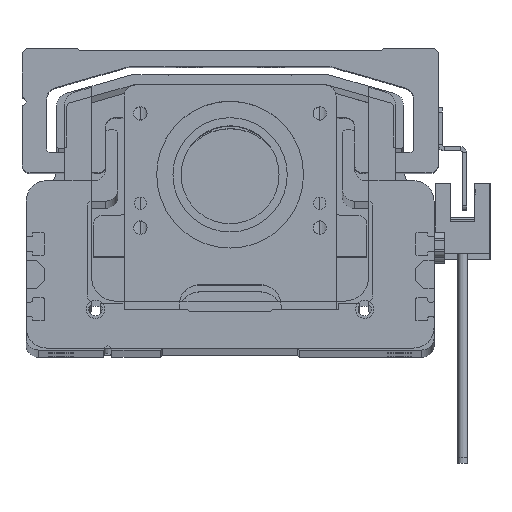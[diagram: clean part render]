
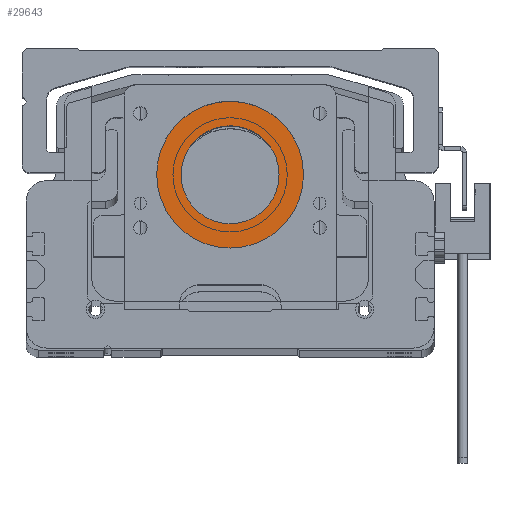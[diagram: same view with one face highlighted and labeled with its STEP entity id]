
A CAD part, top view. The second image highlights one B-rep face of the part: STEP entity #29643.
In plain terms, the highlighted planar face has unit normal (0, 0, 1).
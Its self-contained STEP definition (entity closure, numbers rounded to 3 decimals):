
#61 = CARTESIAN_POINT ( 'NONE',  ( 0., 33., 2.5 ) ) ;
#1022 = AXIS2_PLACEMENT_3D ( 'NONE', #19392, #4127, #21903 ) ;
#1275 = DIRECTION ( 'NONE',  ( 1., 0., 0. ) ) ;
#2590 = CIRCLE ( 'NONE', #1022, 12. ) ;
#3141 = FACE_OUTER_BOUND ( 'NONE', #21483, .T. ) ;
#4127 = DIRECTION ( 'NONE',  ( 0., 0., 1. ) ) ;
#5139 = EDGE_LOOP ( 'NONE', ( #28637, #7697 ) ) ;
#6093 = CARTESIAN_POINT ( 'NONE',  ( -12., 33., 2.5 ) ) ;
#6360 = CARTESIAN_POINT ( 'NONE',  ( 0., 33., 2.5 ) ) ;
#7527 = EDGE_CURVE ( 'NONE', #23690, #32506, #20418, .T. ) ;
#7697 = ORIENTED_EDGE ( 'NONE', *, *, #32660, .F. ) ;
#8209 = DIRECTION ( 'NONE',  ( 1., 0., 0. ) ) ;
#8259 = DIRECTION ( 'NONE',  ( 0., 0., 1. ) ) ;
#8318 = CARTESIAN_POINT ( 'NONE',  ( 0., 33., 2.5 ) ) ;
#9171 = FACE_BOUND ( 'NONE', #5139, .T. ) ;
#9661 = DIRECTION ( 'NONE',  ( 1., 0., 0. ) ) ;
#9734 = DIRECTION ( 'NONE',  ( 0., 0., 1. ) ) ;
#9738 = CARTESIAN_POINT ( 'NONE',  ( 0., 33., 2.5 ) ) ;
#11383 = VERTEX_POINT ( 'NONE', #11462 ) ;
#11462 = CARTESIAN_POINT ( 'NONE',  ( 12., 33., 2.5 ) ) ;
#11823 = CARTESIAN_POINT ( 'NONE',  ( -18., 33., 2.5 ) ) ;
#12902 = AXIS2_PLACEMENT_3D ( 'NONE', #9738, #9734, #9661 ) ;
#14515 = CIRCLE ( 'NONE', #26238, 18. ) ;
#16610 = DIRECTION ( 'NONE',  ( 0., 0., 1. ) ) ;
#17144 = DIRECTION ( 'NONE',  ( 0., 0., 1. ) ) ;
#17277 = AXIS2_PLACEMENT_3D ( 'NONE', #6360, #16610, #1275 ) ;
#17867 = EDGE_CURVE ( 'NONE', #11383, #24068, #31363, .T. ) ;
#19392 = CARTESIAN_POINT ( 'NONE',  ( 0., 33., 2.5 ) ) ;
#20418 = CIRCLE ( 'NONE', #26376, 18. ) ;
#21234 = EDGE_CURVE ( 'NONE', #32506, #23690, #14515, .T. ) ;
#21483 = EDGE_LOOP ( 'NONE', ( #23577, #23161 ) ) ;
#21903 = DIRECTION ( 'NONE',  ( 1., 0., 0. ) ) ;
#23161 = ORIENTED_EDGE ( 'NONE', *, *, #7527, .T. ) ;
#23577 = ORIENTED_EDGE ( 'NONE', *, *, #21234, .T. ) ;
#23690 = VERTEX_POINT ( 'NONE', #11823 ) ;
#24068 = VERTEX_POINT ( 'NONE', #6093 ) ;
#24073 = PLANE ( 'NONE',  #17277 ) ;
#26034 = CARTESIAN_POINT ( 'NONE',  ( 18., 33., 2.5 ) ) ;
#26238 = AXIS2_PLACEMENT_3D ( 'NONE', #8318, #8259, #8209 ) ;
#26376 = AXIS2_PLACEMENT_3D ( 'NONE', #61, #17144, #32637 ) ;
#28637 = ORIENTED_EDGE ( 'NONE', *, *, #17867, .F. ) ;
#29643 = ADVANCED_FACE ( 'NONE', ( #3141, #9171 ), #24073, .T. ) ;
#31363 = CIRCLE ( 'NONE', #12902, 12. ) ;
#32506 = VERTEX_POINT ( 'NONE', #26034 ) ;
#32637 = DIRECTION ( 'NONE',  ( 1., 0., 0. ) ) ;
#32660 = EDGE_CURVE ( 'NONE', #24068, #11383, #2590, .T. ) ;
